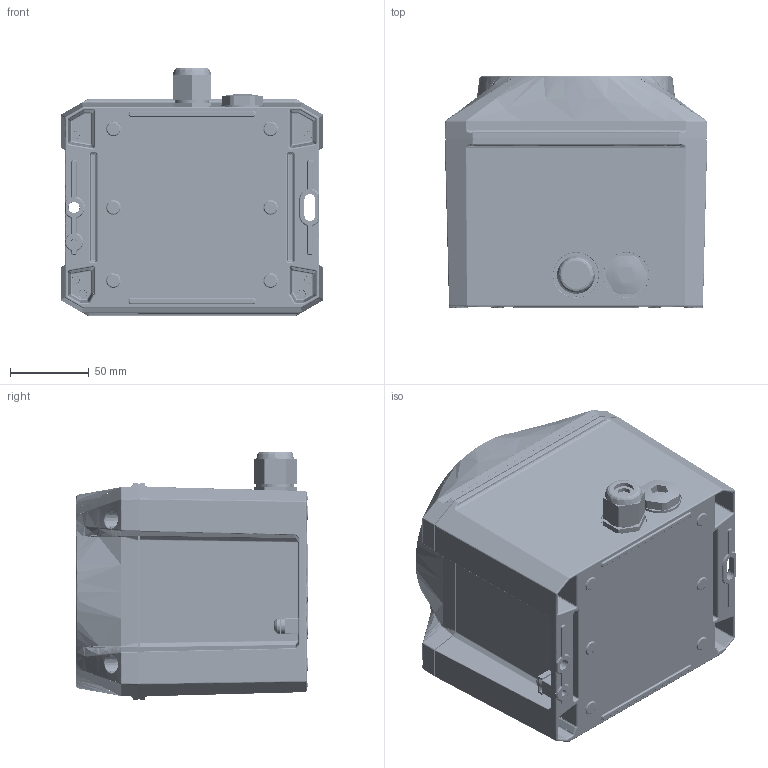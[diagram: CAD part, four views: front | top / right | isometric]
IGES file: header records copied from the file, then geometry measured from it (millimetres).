
Start section: SolidWorks IGES file using analytic representation for surfaces
Global section: file name: O:\PDG\Technik\Projekte\Projekte-in Entwicklung\P20294AA_PRO10\10_Dokumentation\03_Dokumentation_Mechanik\M4\STEP-Daten\20240514_PRO 10 EX.IGS; native system: SolidWorks 2021; preprocessor: SolidWorks 2021; author: PDG_KS; date: 240514.113851; units: millimetre
Bounding box: 167 x 147.81 x 158.25 mm (x, y, z)
Surface area: 345126.9 mm2 (no closed solid volume)
Topology: 0 solids, 0 shells, 4411 faces, 39595 edges, 39254 vertices
Faces by surface type: bspline 2884, revolution 1527
